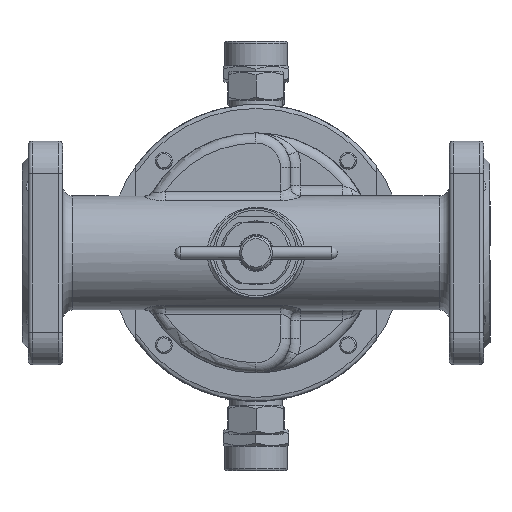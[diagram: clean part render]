
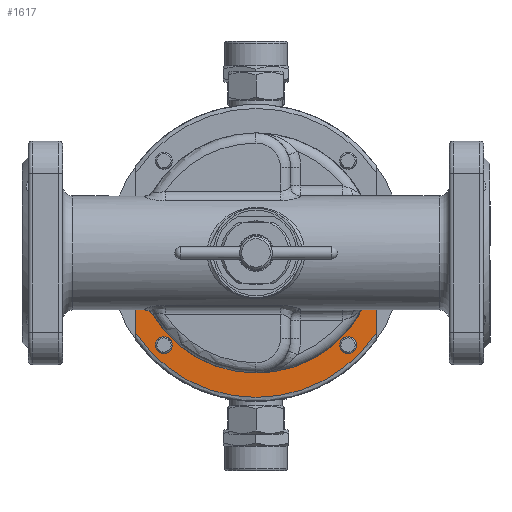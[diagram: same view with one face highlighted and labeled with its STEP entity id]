
A CAD part, front view. The second image highlights one B-rep face of the part: STEP entity #1617.
In plain terms, the highlighted planar face has unit normal (0, -1, 0).
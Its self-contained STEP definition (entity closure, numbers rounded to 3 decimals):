
#1617=ADVANCED_FACE('',(#17386,#17388,#17390),#17392,.F.);
#17386=FACE_BOUND('',#17387,.T.);
#17387=EDGE_LOOP('',(#30218));
#17388=FACE_BOUND('',#17389,.T.);
#17389=EDGE_LOOP('',(#30219));
#17390=FACE_OUTER_BOUND('',#17391,.T.);
#17391=EDGE_LOOP('',(#30220,#30221,#30222,#30223));
#17392=PLANE('',#17393);
#17393=AXIS2_PLACEMENT_3D('',#17394,#17395,#17396);
#17394=CARTESIAN_POINT('',(0.,39.5,0.));
#17395=DIRECTION('',(0.,1.,0.));
#17396=DIRECTION('',(-1.,0.,0.));
#30218=ORIENTED_EDGE('',*,*,#37857,.T.);
#30219=ORIENTED_EDGE('',*,*,#37858,.T.);
#30220=ORIENTED_EDGE('',*,*,#37859,.F.);
#30221=ORIENTED_EDGE('',*,*,#37791,.F.);
#30222=ORIENTED_EDGE('',*,*,#37860,.F.);
#30223=ORIENTED_EDGE('',*,*,#37797,.F.);
#37791=EDGE_CURVE('',#45588,#45590,#45591,.T.);
#37797=EDGE_CURVE('',#45598,#45600,#45601,.T.);
#37857=EDGE_CURVE('',#45702,#45702,#45703,.T.);
#37858=EDGE_CURVE('',#45704,#45704,#45705,.T.);
#37859=EDGE_CURVE('',#45590,#45598,#45706,.T.);
#37860=EDGE_CURVE('',#45600,#45588,#45707,.T.);
#45588=VERTEX_POINT('',#69295);
#45590=VERTEX_POINT('',#69299);
#45591=LINE('',#69300,#69301);
#45598=VERTEX_POINT('',#69372);
#45600=VERTEX_POINT('',#69430);
#45601=LINE('',#69431,#69432);
#45702=VERTEX_POINT('',#70698);
#45703=CIRCLE('',#70699,4.188);
#45704=VERTEX_POINT('',#70703);
#45705=CIRCLE('',#70704,4.188);
#45706=CIRCLE('',#70708,71.);
#45707=CIRCLE('',#70712,59.);
#69295=CARTESIAN_POINT('',(59.,39.5,0.));
#69299=CARTESIAN_POINT('',(59.,39.5,-39.497));
#69300=CARTESIAN_POINT('',(59.,39.5,0.));
#69301=VECTOR('',#69302,1.);
#69302=DIRECTION('',(0.,0.,-1.));
#69372=CARTESIAN_POINT('',(-59.,39.5,-39.497));
#69430=CARTESIAN_POINT('',(-59.,39.5,0.));
#69431=CARTESIAN_POINT('',(-59.,39.5,-39.497));
#69432=VECTOR('',#69433,1.);
#69433=DIRECTION('',(0.,0.,1.));
#70698=CARTESIAN_POINT('',(-49.443,39.5,-45.255));
#70699=AXIS2_PLACEMENT_3D('',#70700,#70701,#70702);
#70700=CARTESIAN_POINT('',(-45.255,39.5,-45.255));
#70701=DIRECTION('',(0.,1.,0.));
#70702=DIRECTION('',(-1.,0.,0.));
#70703=CARTESIAN_POINT('',(41.067,39.5,-45.255));
#70704=AXIS2_PLACEMENT_3D('',#70705,#70706,#70707);
#70705=CARTESIAN_POINT('',(45.255,39.5,-45.255));
#70706=DIRECTION('',(0.,1.,0.));
#70707=DIRECTION('',(-1.,0.,0.));
#70708=AXIS2_PLACEMENT_3D('',#70709,#70710,#70711);
#70709=CARTESIAN_POINT('',(0.,39.5,0.));
#70710=DIRECTION('',(0.,1.,0.));
#70711=DIRECTION('',(0.831,0.,-0.556));
#70712=AXIS2_PLACEMENT_3D('',#70713,#70714,#70715);
#70713=CARTESIAN_POINT('',(0.,39.5,0.));
#70714=DIRECTION('',(0.,-1.,0.));
#70715=DIRECTION('',(-1.,0.,0.));
